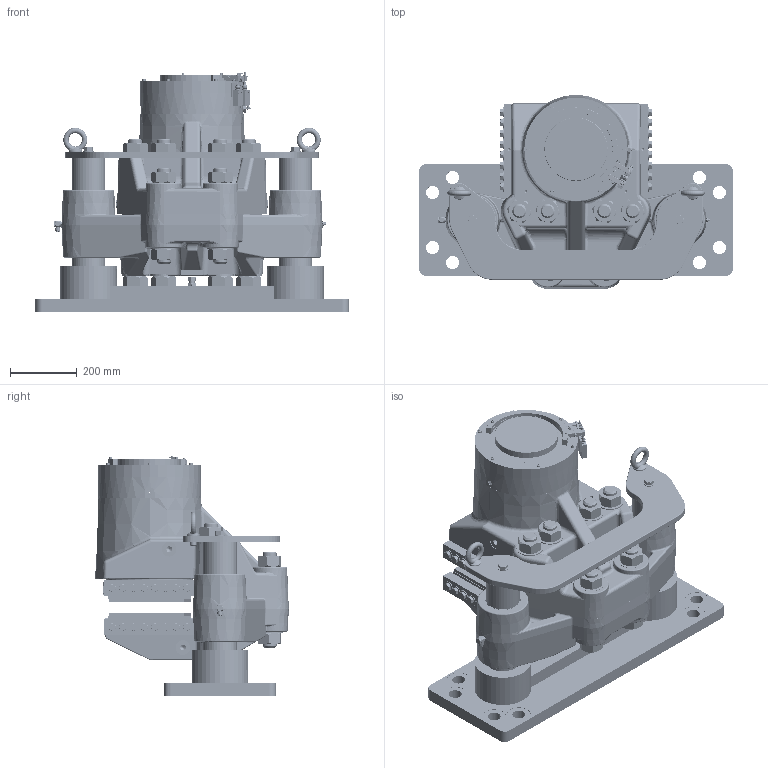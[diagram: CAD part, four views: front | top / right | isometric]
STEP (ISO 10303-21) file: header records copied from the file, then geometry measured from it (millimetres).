
FILE_DESCRIPTION((''),'2;1');
FILE_NAME('HS_215_FHM-560R_V_ASM','2020-11-03T',('BOLS'),(''),'CREO PARAMETRIC BY PTC INC, 2018360','CREO PARAMETRIC BY PTC INC, 2018360','');
FILE_SCHEMA(('CONFIG_CONTROL_DESIGN'));
Length unit declared in the file: millimetre
Products named in the file (189): 12662-E20_S400SH-1_12662-EN-512; 12662-E20_S400SH-1_12662-C-1598; 12662-E20_S400SH-1_12662-E-2506; 12662-E20_S400SH-1_12662-C-3423; 12662-E20_S400SH-1_12662-E-3613; 12662-E20_S400SH-1_12662-C-4531; 12662-E20_S400SH-1_12662-E-5440; 12662-E20_S400SH-1_12662-C-6357; 12662-E20_S400SH-1_12662-E-7464; 12662-E20_S400SH-1_12662-E-8553; 12662-E20_S400SH-1_12662-E-9459; 12662-102_S400_SUPPORT_PA-10328; 12662-E20_S400SH-1_12662--10520; 12662-E20_S400SH-1_12662--11444; 12662-E20_S400SH-1_12662--13435; 12662-E20_S400SH-1_12662--14336; 12662-E20_S400SH-1_12662--15242; 12662-E20_S400SH-1_12662--15426; 12662-E20_S400SH-1_12662--16321; 12662-E20_S400SH-1_12662--17245; 12662-E20_S400SH-1_12662--18325; 12662-102_S400_SUPPORT_PA-19274; 12662-E20_S400SH-1_12662--20183; 12662-E20_S400SH-1_12662--20374; 12662-E20_S400SH-1_12662--21286; 12662-E20_S400SH-1_12662--22160; 12662-E20_S400SH-1_12662--22356; 12662-E20_S400SH-1_12662--23265; 12662-102_S400_SUPPORT_PA-24153; 12662-E20_S400SH-1_12662--25265; 12662-E20_S400SH-1_12662--26144; 12662-102_S400_SUPPORT_PA-27067; 12662-E20_S400SH-1_12662--27255; 12662-E20_S400SH-1_12662--28139; 12662-E20_S400SH-1_12662--29082; 12662-E20_S400SH-1_12662--30166; 12662-E20_S400SH-1_12662--31106; 12662-E20_S400SH-1_12662--32008; 12662-E20_S400SH-1_12662--32191; 12662-E20_S400SH-1_12662--33124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
Assembly tree (188 placements, depth 3):
  HS_215_FHM-560R_V_ASM
    12662-E40-15_STEP_S400SH_AVEC_S_ASM
      12662-E20_S400SH-1_12662-EN-512
      12662-E20_S400SH-1_12662-C-1598
      12662-E20_S400SH-1_12662-E-2506
      12662-E20_S400SH-1_12662-C-3423
      12662-E20_S400SH-1_12662-E-3613
      12662-E20_S400SH-1_12662-C-4531
      12662-E20_S400SH-1_12662-E-5440
      12662-E20_S400SH-1_12662-C-6357
      12662-E20_S400SH-1_12662-E-7464
      12662-E20_S400SH-1_12662-E-8553
      12662-E20_S400SH-1_12662-E-9459
      12662-102_S400_SUPPORT_PA-10328
      12662-E20_S400SH-1_12662--10520
      12662-E20_S400SH-1_12662--11444
      12662-E20_S400SH-1_12662--13435
      12662-E20_S400SH-1_12662--14336
      12662-E20_S400SH-1_12662--15242
      12662-E20_S400SH-1_12662--15426
      12662-E20_S400SH-1_12662--16321
      12662-E20_S400SH-1_12662--17245
      12662-E20_S400SH-1_12662--18325
      12662-102_S400_SUPPORT_PA-19274
      12662-E20_S400SH-1_12662--20183
      12662-E20_S400SH-1_12662--20374
      12662-E20_S400SH-1_12662--21286
      12662-E20_S400SH-1_12662--22160
      12662-E20_S400SH-1_12662--22356
      12662-E20_S400SH-1_12662--23265
      12662-102_S400_SUPPORT_PA-24153
      12662-E20_S400SH-1_12662--25265
      12662-E20_S400SH-1_12662--26144
      12662-102_S400_SUPPORT_PA-27067
      12662-E20_S400SH-1_12662--27255
      12662-E20_S400SH-1_12662--28139
      12662-E20_S400SH-1_12662--29082
      12662-E20_S400SH-1_12662--30166
      12662-E20_S400SH-1_12662--31106
      12662-E20_S400SH-1_12662--32008
      12662-E20_S400SH-1_12662--32191
      12662-E20_S400SH-1_12662--33124
      12662-102_S400_SUPPORT_PA-34944
      12662-E20_S400SH-1_12662--35125
      12662-E20_S400SH-1_12662--38093
      12662-E20_S400SH-1_12662--38998
      12662-E20_S400SH-1_12662--39174
      12662-E20_S400SH-1_12662--40077
      12662-E20_S400SH-1_12662--40996
      12662-E20_S400SH-1_12662--42096
      12662-E20_S400SH-1_12662--43020
      12662-E20_S400SH-1_12662--43913
      12662-E20_S400SH-1_12662--44118
      12662-E20_S400SH-1_12662--45045
      12662-E20_S400SH-1_12662--45911
      12662-E20_S400SH-1_12662--47926
      12662-E20_S400SH-1_12662--48843
      12662-E20_S400SH-1_12662--49035
      12662-E20_S400SH-1_12662--49934
      12662-E20_S400SH-1_12662--51943
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Bounding box: 940 x 581.11 x 719.26 mm (x, y, z)
Volume: 78280417 mm3; surface area: 6485144.9 mm2
Topology: 187 solids, 187 shells, 4601 faces, 10781 edges, 6508 vertices
Faces by surface type: plane 1504, cylinder 1474, cone 972, bspline 315, torus 231, sphere 101, revolution 4
Entity records: 238210 total; most frequent: CARTESIAN_POINT 65677, DIRECTION 22627, ORIENTED_EDGE 21006, PRESENTATION_STYLE_ASSIGNMENT 15293, STYLED_ITEM 15293, CURVE_STYLE 10507, EDGE_CURVE 10503, AXIS2_PLACEMENT_3D 9266
